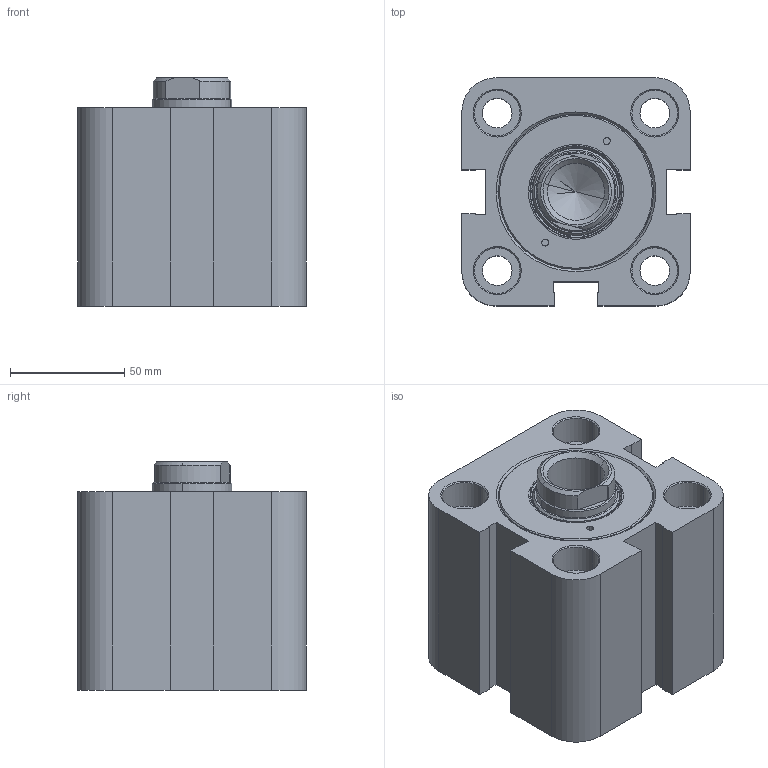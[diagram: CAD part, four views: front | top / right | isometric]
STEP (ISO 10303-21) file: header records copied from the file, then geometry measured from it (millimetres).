
FILE_DESCRIPTION (( 'STEP AP214' ), '1' );
FILE_NAME ('KSWC_03_M_63_35_10_WEB.STEP', '2020-08-19T12:09:20', ( '' ), ( '' ), 'SwSTEP 2.0', 'SolidWorks 2018', '' );
FILE_SCHEMA (( 'AUTOMOTIVE_DESIGN' ));
Length unit declared in the file: millimetre
Products named in the file (8): KSWC_03_63_35_烰_KAPAK; KSWC_03_M_63_GOVDE_WEB; 35_K_MIL_WEB; KSWC_03_M_63_35_10_WEB; KSWC_03_63_35_ON_KAPAK; K05-35X41X4; KO-58X3; K22-35X45X8
Assembly tree (7 placements, depth 3):
  KSWC_03_M_63_35_10_WEB
    KSWC_03_M_63_GOVDE_WEB
    35_K_MIL_WEB
    KSWC_03_63_35_ON_KAPAK
      KSWC_03_63_35_烰_KAPAK
      K05-35X41X4
      K22-35X45X8
      KO-58X3
Bounding box: 100 x 100 x 100 mm (x, y, z)
Volume: 718467.6 mm3; surface area: 113644.4 mm2
Topology: 6 solids, 6 shells, 429 faces, 1038 edges, 658 vertices
Faces by surface type: plane 153, bspline 118, cylinder 81, cone 77
Entity records: 19938 total; most frequent: CARTESIAN_POINT 8422, ORIENTED_EDGE 2072, DIRECTION 1692, EDGE_CURVE 1036, VERTEX_POINT 658, AXIS2_PLACEMENT_3D 572, LINE 548, VECTOR 548
